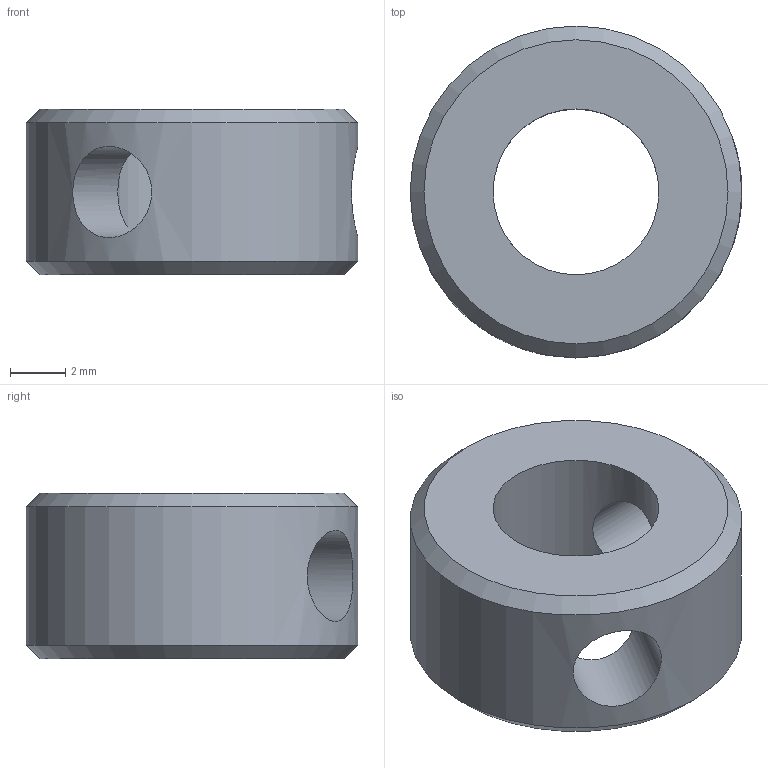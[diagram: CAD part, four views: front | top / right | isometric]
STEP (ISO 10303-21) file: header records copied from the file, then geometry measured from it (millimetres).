
FILE_DESCRIPTION (( 'STEP AP214' ), '1' );
FILE_NAME ('N90809.step', '2024-12-03T16:28:04', ( '' ), ( '' ), 'SwSTEP 2.0', 'SolidWorks 2023', '' );
FILE_SCHEMA (( 'AUTOMOTIVE_DESIGN' ));
Length unit declared in the file: millimetre
Products named in the file (1): N90809
Bounding box: 12 x 12 x 6 mm (x, y, z)
Volume: 447.4 mm3; surface area: 515.9 mm2
Topology: 1 solids, 1 shells, 8 faces, 20 edges, 12 vertices
Faces by surface type: cylinder 4, plane 2, cone 2
Full cylindrical faces by diameter (mm): 3.3 x2, 6 x1, 12 x1
Entity records: 413 total; most frequent: CARTESIAN_POINT 235, DIRECTION 30, ORIENTED_EDGE 20, EDGE_LOOP 20, AXIS2_PLACEMENT_3D 15, FACE_OUTER_BOUND 12, VERTEX_POINT 10, EDGE_CURVE 10
